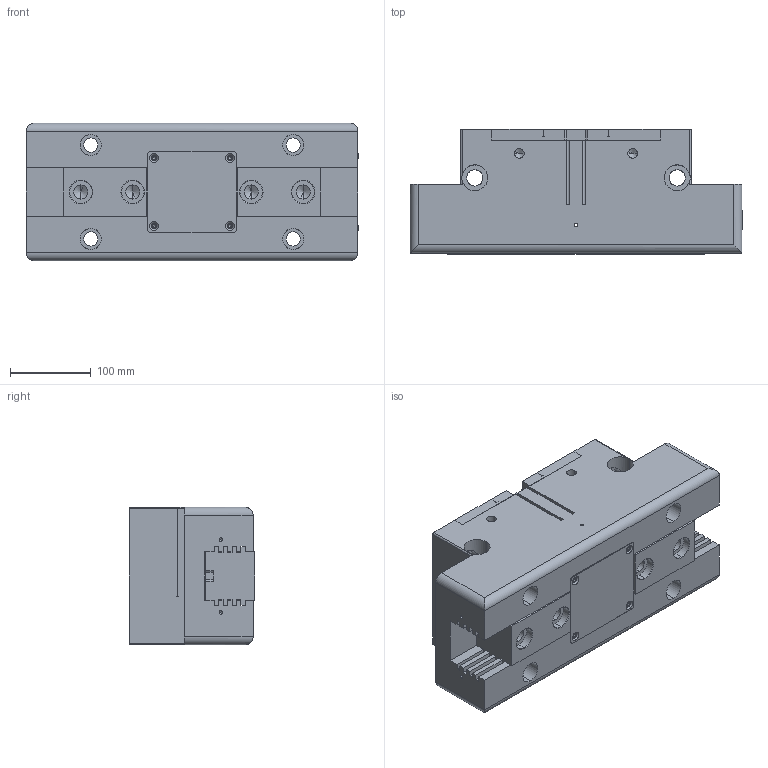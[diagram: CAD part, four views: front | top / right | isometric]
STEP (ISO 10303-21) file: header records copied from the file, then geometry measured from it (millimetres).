
FILE_DESCRIPTION (( 'STEP AP214' ), '1' );
FILE_NAME ('TWN-380A-1.STEP', '2019-12-10T08:36:17', ( '' ), ( '' ), 'SwSTEP 2.0', 'SolidWorks 2016', '' );
FILE_SCHEMA (( 'AUTOMOTIVE_DESIGN' ));
Length unit declared in the file: millimetre
Products named in the file (5): TWN-380A-1-03; TWN-380A-1-04; TWN-380A-1-02; TWN-380A-1-01; TWN-380A-1
Assembly tree (5 placements, depth 2):
  TWN-380A-1
    TWN-380A-1-01
    TWN-380A-1-03
    TWN-380A-1-02  x2
    TWN-380A-1-04
Bounding box: 410 x 155 x 170 mm (x, y, z)
Volume: 8229358 mm3; surface area: 706259.5 mm2
Topology: 5 solids, 8 shells, 504 faces, 1350 edges, 852 vertices
Faces by surface type: cylinder 216, plane 212, cone 76
Entity records: 15147 total; most frequent: CARTESIAN_POINT 3158, DIRECTION 2371, ORIENTED_EDGE 2202, EDGE_CURVE 1101, AXIS2_PLACEMENT_3D 861, VERTEX_POINT 728, LINE 649, VECTOR 649
